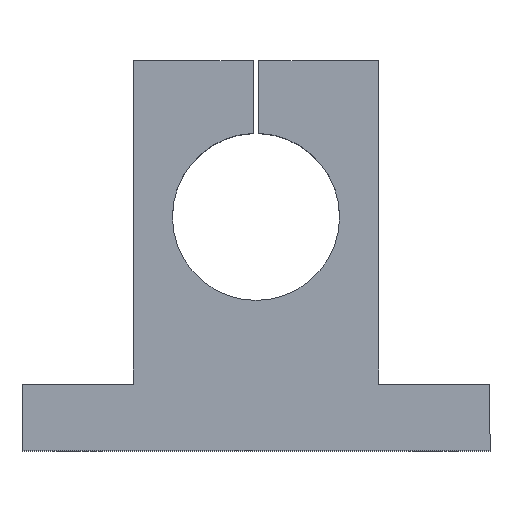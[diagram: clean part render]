
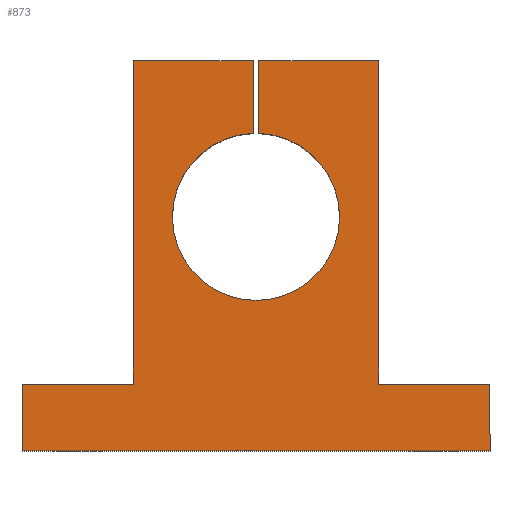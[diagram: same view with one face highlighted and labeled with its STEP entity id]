
A CAD part, top view. The second image highlights one B-rep face of the part: STEP entity #873.
In plain terms, the highlighted planar face has unit normal (0, 0, 1).
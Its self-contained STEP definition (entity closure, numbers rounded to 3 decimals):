
#51=CARTESIAN_POINT('',(57.302,39.903,28.));
#52=VERTEX_POINT('',#51);
#59=CARTESIAN_POINT('',(42.802,54.895,28.));
#60=VERTEX_POINT('',#59);
#61=CARTESIAN_POINT('',(42.302,39.903,28.));
#62=DIRECTION('',(0.0,0.0,-1.0));
#63=DIRECTION('',(-1.0,0.0,0.0));
#64=AXIS2_PLACEMENT_3D('',#61,#62,#63);
#65=CIRCLE('',#64,15.0);
#66=EDGE_CURVE('',#60,#52,#65,.T.);
#91=CARTESIAN_POINT('',(27.302,39.903,28.));
#92=VERTEX_POINT('',#91);
#101=CARTESIAN_POINT('',(42.302,39.903,28.));
#102=DIRECTION('',(0.0,0.0,-1.0));
#103=DIRECTION('',(-1.0,0.0,0.0));
#104=AXIS2_PLACEMENT_3D('',#101,#102,#103);
#105=CIRCLE('',#104,15.0);
#106=EDGE_CURVE('',#52,#92,#105,.T.);
#590=CARTESIAN_POINT('',(41.802,54.895,28.));
#591=VERTEX_POINT('',#590);
#606=CARTESIAN_POINT('',(41.802,67.903,28.));
#607=VERTEX_POINT('',#606);
#614=CARTESIAN_POINT('',(41.802,54.895,28.));
#615=DIRECTION('',(0.0,1.0,0.0));
#616=VECTOR('',#615,13.008);
#617=LINE('',#614,#616);
#618=EDGE_CURVE('',#591,#607,#617,.T.);
#633=CARTESIAN_POINT('',(42.802,67.903,28.));
#634=VERTEX_POINT('',#633);
#635=CARTESIAN_POINT('',(42.802,67.903,28.));
#636=DIRECTION('',(0.0,-1.0,0.0));
#637=VECTOR('',#636,13.008);
#638=LINE('',#635,#637);
#639=EDGE_CURVE('',#634,#60,#638,.T.);
#676=CARTESIAN_POINT('',(20.302,67.903,28.));
#677=VERTEX_POINT('',#676);
#684=CARTESIAN_POINT('',(20.302,67.903,28.));
#685=DIRECTION('',(1.0,0.0,0.0));
#686=VECTOR('',#685,21.5);
#687=LINE('',#684,#686);
#688=EDGE_CURVE('',#677,#607,#687,.T.);
#699=CARTESIAN_POINT('',(64.302,67.903,28.));
#700=VERTEX_POINT('',#699);
#701=CARTESIAN_POINT('',(42.802,67.903,28.));
#702=DIRECTION('',(1.0,0.0,0.0));
#703=VECTOR('',#702,21.5);
#704=LINE('',#701,#703);
#705=EDGE_CURVE('',#634,#700,#704,.T.);
#799=CARTESIAN_POINT('',(42.302,25.371,28.));
#800=DIRECTION('',(0.0,0.0,1.0));
#801=DIRECTION('',(1.0,0.0,0.0));
#802=AXIS2_PLACEMENT_3D('',#799,#800,#801);
#803=PLANE('',#802);
#804=ORIENTED_EDGE('',*,*,#618,.T.);
#805=ORIENTED_EDGE('',*,*,#688,.F.);
#806=CARTESIAN_POINT('',(20.302,9.903,28.));
#807=VERTEX_POINT('',#806);
#808=CARTESIAN_POINT('',(20.302,9.903,28.));
#809=DIRECTION('',(0.0,1.0,0.0));
#810=VECTOR('',#809,58.0);
#811=LINE('',#808,#810);
#812=EDGE_CURVE('',#807,#677,#811,.T.);
#813=ORIENTED_EDGE('',*,*,#812,.F.);
#814=CARTESIAN_POINT('',(0.302,9.903,28.));
#815=VERTEX_POINT('',#814);
#816=CARTESIAN_POINT('',(0.302,9.903,28.));
#817=DIRECTION('',(1.0,0.0,0.0));
#818=VECTOR('',#817,20.);
#819=LINE('',#816,#818);
#820=EDGE_CURVE('',#815,#807,#819,.T.);
#821=ORIENTED_EDGE('',*,*,#820,.F.);
#822=CARTESIAN_POINT('',(0.302,-2.097,28.));
#823=VERTEX_POINT('',#822);
#824=CARTESIAN_POINT('',(0.302,-2.097,28.));
#825=DIRECTION('',(0.0,1.0,0.0));
#826=VECTOR('',#825,12.);
#827=LINE('',#824,#826);
#828=EDGE_CURVE('',#823,#815,#827,.T.);
#829=ORIENTED_EDGE('',*,*,#828,.F.);
#830=CARTESIAN_POINT('',(84.302,-2.097,28.));
#831=VERTEX_POINT('',#830);
#832=CARTESIAN_POINT('',(84.302,-2.097,28.));
#833=DIRECTION('',(-1.0,0.0,0.0));
#834=VECTOR('',#833,84.0);
#835=LINE('',#832,#834);
#836=EDGE_CURVE('',#831,#823,#835,.T.);
#837=ORIENTED_EDGE('',*,*,#836,.F.);
#838=CARTESIAN_POINT('',(84.302,9.903,28.));
#839=VERTEX_POINT('',#838);
#840=CARTESIAN_POINT('',(84.302,9.903,28.));
#841=DIRECTION('',(0.0,-1.0,0.0));
#842=VECTOR('',#841,12.);
#843=LINE('',#840,#842);
#844=EDGE_CURVE('',#839,#831,#843,.T.);
#845=ORIENTED_EDGE('',*,*,#844,.F.);
#846=CARTESIAN_POINT('',(64.302,9.903,28.));
#847=VERTEX_POINT('',#846);
#848=CARTESIAN_POINT('',(64.302,9.903,28.));
#849=DIRECTION('',(1.0,0.0,0.0));
#850=VECTOR('',#849,20.0);
#851=LINE('',#848,#850);
#852=EDGE_CURVE('',#847,#839,#851,.T.);
#853=ORIENTED_EDGE('',*,*,#852,.F.);
#854=CARTESIAN_POINT('',(64.302,67.903,28.));
#855=DIRECTION('',(0.0,-1.0,0.0));
#856=VECTOR('',#855,58.0);
#857=LINE('',#854,#856);
#858=EDGE_CURVE('',#700,#847,#857,.T.);
#859=ORIENTED_EDGE('',*,*,#858,.F.);
#860=ORIENTED_EDGE('',*,*,#705,.F.);
#861=ORIENTED_EDGE('',*,*,#639,.T.);
#862=ORIENTED_EDGE('',*,*,#66,.T.);
#863=ORIENTED_EDGE('',*,*,#106,.T.);
#864=CARTESIAN_POINT('',(42.302,39.903,28.));
#865=DIRECTION('',(0.0,0.0,-1.0));
#866=DIRECTION('',(-1.0,0.0,0.0));
#867=AXIS2_PLACEMENT_3D('',#864,#865,#866);
#868=CIRCLE('',#867,15.0);
#869=EDGE_CURVE('',#92,#591,#868,.T.);
#870=ORIENTED_EDGE('',*,*,#869,.T.);
#871=EDGE_LOOP('',(#804,#805,#813,#821,#829,#837,#845,#853,#859,#860,#861,#862,#863,#870));
#872=FACE_OUTER_BOUND('',#871,.T.);
#873=ADVANCED_FACE('',(#872),#803,.T.);
